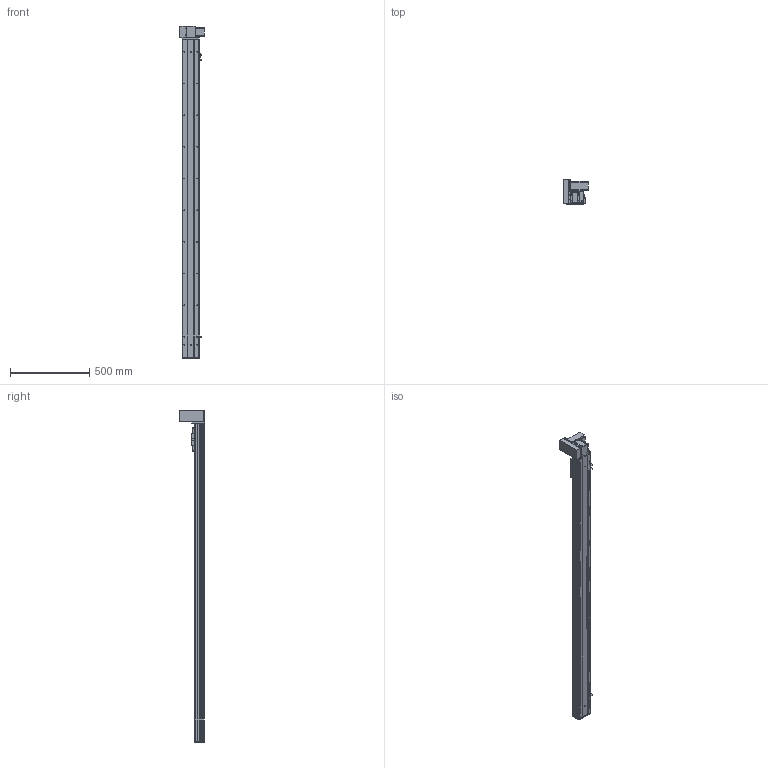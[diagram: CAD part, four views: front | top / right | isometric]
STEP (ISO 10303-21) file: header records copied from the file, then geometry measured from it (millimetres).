
FILE_DESCRIPTION (( 'STEP AP203' ), '1' );
FILE_NAME ('Y10CB-D90-S1750-UL-P400W.STEP', '2020-02-16T08:05:18', ( '微软用户' ), ( '微软中国' ), 'SwSTEP 2.0', 'SolidWorks 2017', '' );
FILE_SCHEMA (( 'CONFIG_CONTROL_DESIGN' ));
Length unit declared in the file: millimetre
Products named in the file (18): Y100-135俋离換覜ん--; 0B-源倛裔啣; Y10B-耜蚾蟀諉啣----; 0B-埴倛裔啣; 00B-俋欶BM--; 10CB-詩湍-; Y10B--々湍喘謫眊--666; Y10CB- 掛极耜裔啣-毀---; 0CB-雄赽釱---; Y10CB-D90-S1750-UL-P400W; Y10C---詩湍揤啣; 0Cb-俋欶---; 10CB9-掛极; Y10B-々湍喘謫眊楊擘啣--; 10CB-耜裔; 0B-萇儂楊擘啣; Y135C-陔俋离換覜結え-; san松下电机400不带刹车----
Assembly tree (21 placements, depth 2):
  Y10CB-D90-S1750-UL-P400W
    0CB-雄赽釱---
    0Cb-俋欶---
    Y10B-々湍喘謫眊楊擘啣--
    0B-萇儂楊擘啣
    san松下电机400不带刹车----
    0B-源倛裔啣
    0B-埴倛裔啣
    10CB-詩湍-
    Y10CB- 掛极耜裔啣-毀---  x2
    Y10C---詩湍揤啣  x2
    10CB9-掛极
    10CB-耜裔
    Y135C-陔俋离換覜結え-
    Y100-135俋离換覜ん--  x3
    Y10B-耜蚾蟀諉啣----
    00B-俋欶BM--
    Y10B--々湍喘謫眊--666
Bounding box: 157 x 155.5 x 2096 mm (x, y, z)
Volume: 4444506.2 mm3; surface area: 2071915.1 mm2
Topology: 21 solids, 21 shells, 1038 faces, 2803 edges, 1826 vertices
Faces by surface type: cylinder 529, plane 485, cone 24
Entity records: 32912 total; most frequent: CARTESIAN_POINT 6061, DIRECTION 5270, ORIENTED_EDGE 5076, EDGE_CURVE 2538, AXIS2_PLACEMENT_3D 1885, VERTEX_POINT 1652, LINE 1500, VECTOR 1500
